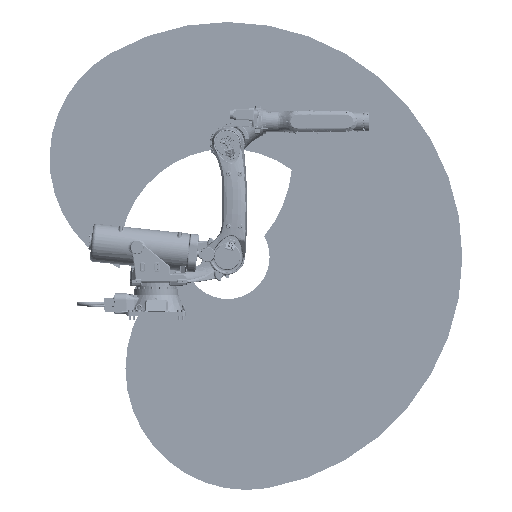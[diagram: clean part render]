
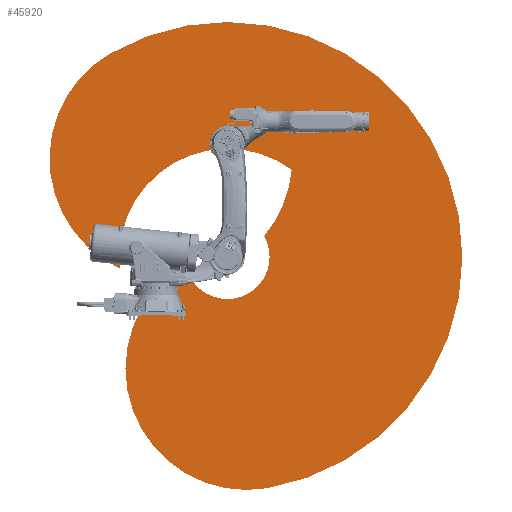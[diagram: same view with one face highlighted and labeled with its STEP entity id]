
A CAD part, front view. The second image highlights one B-rep face of the part: STEP entity #45920.
In plain terms, the highlighted planar face has unit normal (0, -1, 0).
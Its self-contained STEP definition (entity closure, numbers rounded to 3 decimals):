
#6636=PLANE('',#159315);
#31931=FACE_OUTER_BOUND('',#63403,.T.);
#45920=ADVANCED_FACE('',(#31931),#6636,.T.);
#63403=EDGE_LOOP('',(#103926,#103927,#103928,#103929,#103930,#103931));
#103926=ORIENTED_EDGE('',*,*,#137308,.T.);
#103927=ORIENTED_EDGE('',*,*,#137309,.T.);
#103928=ORIENTED_EDGE('',*,*,#137310,.T.);
#103929=ORIENTED_EDGE('',*,*,#137311,.T.);
#103930=ORIENTED_EDGE('',*,*,#137312,.T.);
#103931=ORIENTED_EDGE('',*,*,#137313,.T.);
#117041=VERTEX_POINT('',#409980);
#117042=VERTEX_POINT('',#409981);
#117043=VERTEX_POINT('',#409983);
#117044=VERTEX_POINT('',#409985);
#117045=VERTEX_POINT('',#409987);
#117046=VERTEX_POINT('',#409989);
#137308=EDGE_CURVE('',#117041,#117042,#144719,.T.);
#137309=EDGE_CURVE('',#117042,#117043,#144720,.T.);
#137310=EDGE_CURVE('',#117043,#117044,#144721,.T.);
#137311=EDGE_CURVE('',#117044,#117045,#144722,.T.);
#137312=EDGE_CURVE('',#117045,#117046,#144723,.T.);
#137313=EDGE_CURVE('',#117046,#117041,#144724,.T.);
#144719=CIRCLE('',#159309,1229.837);
#144720=CIRCLE('',#159310,2379.837);
#144721=CIRCLE('',#159311,1229.837);
#144722=CIRCLE('',#159312,1095.565);
#144723=CIRCLE('',#159313,1229.837);
#144724=CIRCLE('',#159314,428.996);
#159309=AXIS2_PLACEMENT_3D('',#409979,#196296,#196297);
#159310=AXIS2_PLACEMENT_3D('',#409982,#196298,#196299);
#159311=AXIS2_PLACEMENT_3D('',#409984,#196300,#196301);
#159312=AXIS2_PLACEMENT_3D('',#409986,#196302,#196303);
#159313=AXIS2_PLACEMENT_3D('',#409988,#196304,#196305);
#159314=AXIS2_PLACEMENT_3D('',#409990,#196306,#196307);
#159315=AXIS2_PLACEMENT_3D('',#409991,#196308,#196309);
#196296=DIRECTION('',(0.,-1.,0.));
#196297=DIRECTION('',(1.,0.,0.));
#196298=DIRECTION('',(0.,-1.,0.));
#196299=DIRECTION('',(1.,0.,0.));
#196300=DIRECTION('',(0.,-1.,0.));
#196301=DIRECTION('',(1.,0.,0.));
#196302=DIRECTION('',(0.,1.,0.));
#196303=DIRECTION('',(1.,0.,0.));
#196304=DIRECTION('',(0.,1.,0.));
#196305=DIRECTION('',(1.,0.,0.));
#196306=DIRECTION('',(0.,1.,0.));
#196307=DIRECTION('',(1.,0.,0.));
#196308=DIRECTION('',(0.,-1.,0.));
#196309=DIRECTION('',(0.,0.,-1.));
#409979=CARTESIAN_POINT('',(194.713,0.,-1133.396));
#409980=CARTESIAN_POINT('',(-425.863,0.,-71.612));
#409981=CARTESIAN_POINT('',(402.944,0.,-2345.477));
#409982=CARTESIAN_POINT('',(0.,0.,0.));
#409983=CARTESIAN_POINT('',(-1189.919,0.,2061.));
#409984=CARTESIAN_POINT('',(-575.,0.,995.929));
#409985=CARTESIAN_POINT('',(-1088.814,0.,-121.432));
#409986=CARTESIAN_POINT('',(0.,0.,0.));
#409987=CARTESIAN_POINT('',(649.57,0.,882.225));
#409988=CARTESIAN_POINT('',(-575.,0.,995.929));
#409989=CARTESIAN_POINT('',(371.303,0.,210.429));
#409990=CARTESIAN_POINT('',(-3.038,0.,0.891));
#409991=CARTESIAN_POINT('',(97.357,0.,-566.698));
